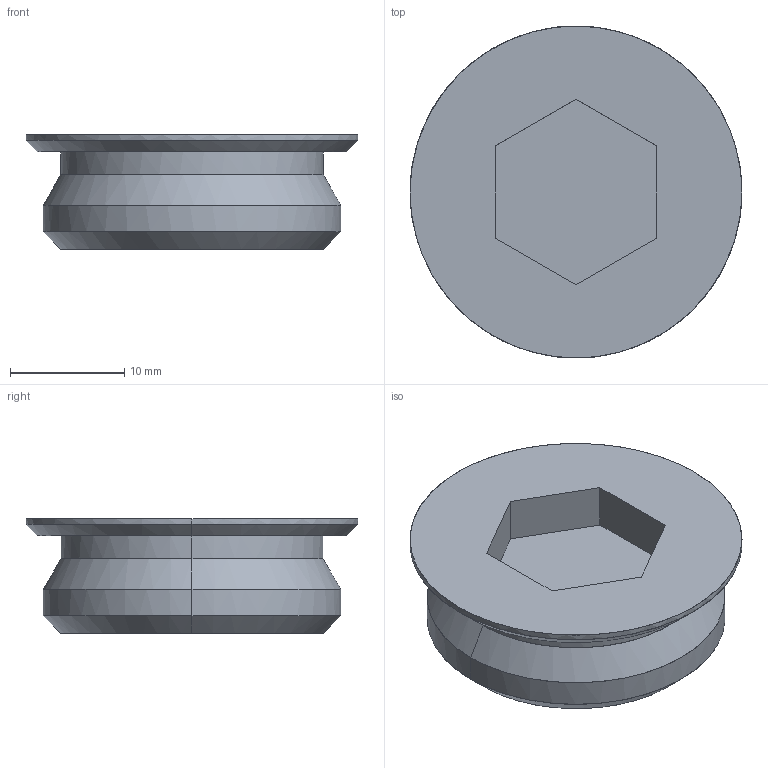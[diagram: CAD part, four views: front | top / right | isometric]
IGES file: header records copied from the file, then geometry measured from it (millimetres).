
Global section: file name: E:\UnigraphicsGraphicData\MISUMI_PRESS-PARTS\IGES\3d_mswzs26-10_00495_r00.igs; native system: NX V5.0; preprocessor: UGS NX IGES V5.0; author: MISUMI; date: 20110105.161530; units: millimetre
Bounding box: 29 x 29 x 10 mm (x, y, z)
Surface area: 2332.5 mm2 (no closed solid volume)
Topology: 0 solids, 0 shells, 22 faces, 132 edges, 132 vertices
Faces by surface type: bspline 22
